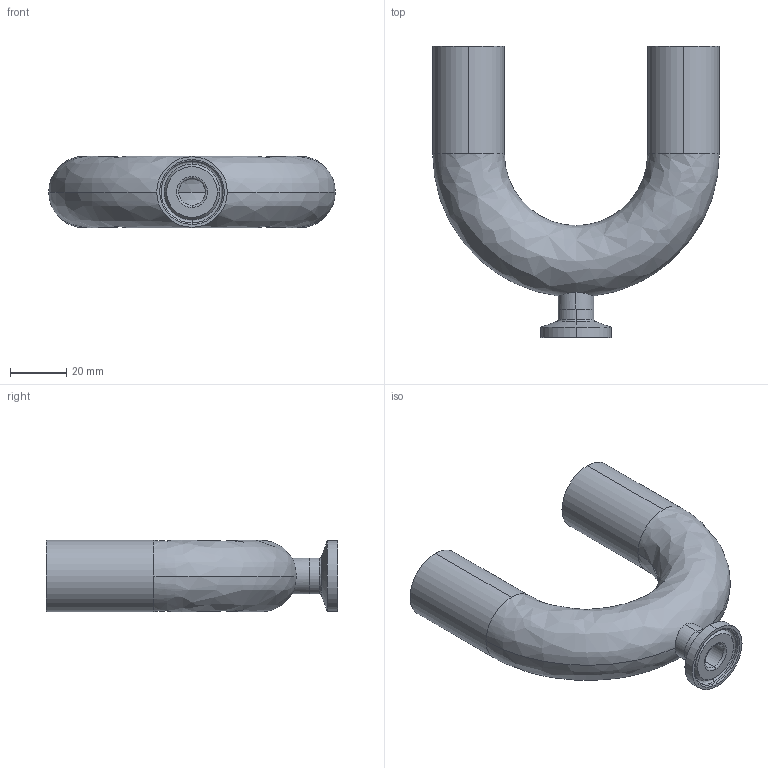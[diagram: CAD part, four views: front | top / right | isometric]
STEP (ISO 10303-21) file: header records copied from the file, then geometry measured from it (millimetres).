
FILE_DESCRIPTION (( 'STEP AP214' ), '1' );
FILE_NAME ('TE2UBWWC6L1.0x.5-...STEP', '2016-05-25T04:58:17', ( 'eran' ), ( '' ), 'SwSTEP 2.0', 'SolidWorks 2016', '' );
FILE_SCHEMA (( 'AUTOMOTIVE_DESIGN' ));
Length unit declared in the file: millimetre
Products named in the file (1): TE2UBWWC6L1.0x.5-..
Bounding box: 101.6 x 103.2 x 25.4 mm (x, y, z)
Volume: 26181.2 mm3; surface area: 31465 mm2
Topology: 2 solids, 2 shells, 42 faces, 102 edges, 64 vertices
Faces by surface type: cylinder 20, bspline 12, plane 6, cone 4
Entity records: 1587 total; most frequent: CARTESIAN_POINT 561, DIRECTION 218, ORIENTED_EDGE 204, EDGE_CURVE 102, AXIS2_PLACEMENT_3D 97, CIRCLE 66, VERTEX_POINT 64, EDGE_LOOP 48
